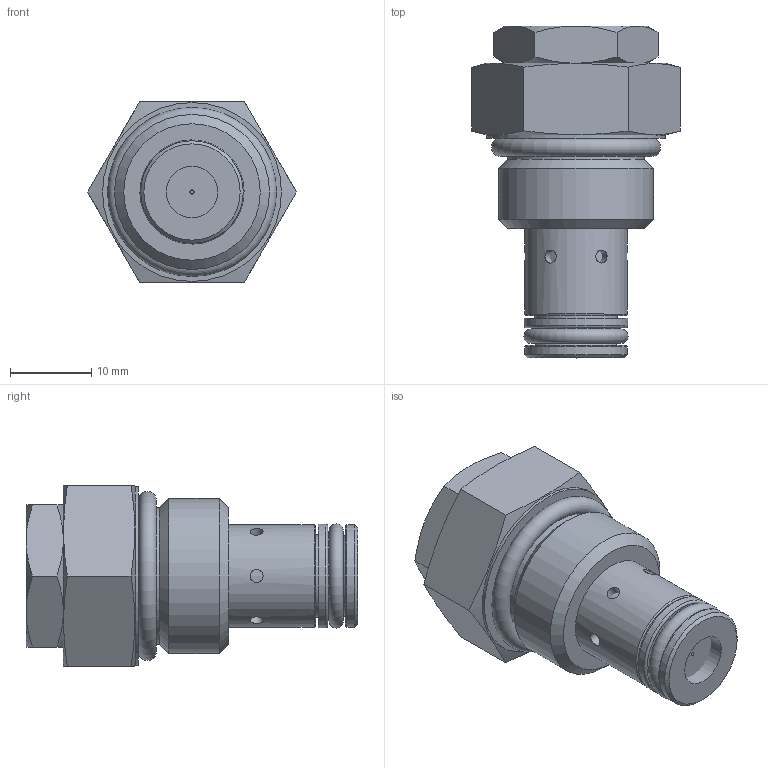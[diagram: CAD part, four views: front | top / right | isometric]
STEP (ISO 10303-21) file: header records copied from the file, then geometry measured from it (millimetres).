
FILE_DESCRIPTION(/* description */ (''),/* implementation_level */ '2;1');
FILE_NAME(/* name */ 'C:\Users\mcooper\OneDrive - Deltrol Corporation\Desktop\DFP_Docs\Deltrol\Catalog Pages 2023\Updated Pages\DFR-080\DFR2-080-2.stp',/* time_stamp */ '2025-09-25T11:39:46-04:00',/* author */ ('mcooper'),/* organization */ (''),/* preprocessor_version */ 'ST-DEVELOPER v18',/* originating_system */ 'Autodesk Inventor 2020',/* authorisation */ '');
FILE_SCHEMA (('AUTOMOTIVE_DESIGN { 1 0 10303 214 3 1 1 }'));
Length unit declared in the file: inch
Products named in the file (1): 10320-53_Shrinkwrap_1
Bounding box: 25.66 x 40.77 x 22.23 mm (x, y, z)
Volume: 10987.2 mm3; surface area: 7108.2 mm2
Topology: 8 solids, 8 shells, 396 faces, 1083 edges, 734 vertices
Faces by surface type: plane 221, bspline 105, cone 31, cylinder 27, torus 12
Full cylindrical faces by diameter (mm): 0.508 x1, 0.762 x1, 1.6 x6, 2.388 x1, 3.734 x1, 4 x1, 6.35 x2, 6.358 x1, 7.087 x1, 9.83 x1, 9.906 x1, 10.08 x1, 10.833 x1, 11.455 x1, 12.598 x2, 12.7 x2, 16.764 x1, 19.05 x1, 21.971 x1
Entity records: 14037 total; most frequent: CARTESIAN_POINT 4154, ORIENTED_EDGE 2164, DIRECTION 1553, EDGE_CURVE 1082, VERTEX_POINT 734, LINE 651, VECTOR 651, EDGE_LOOP 452
